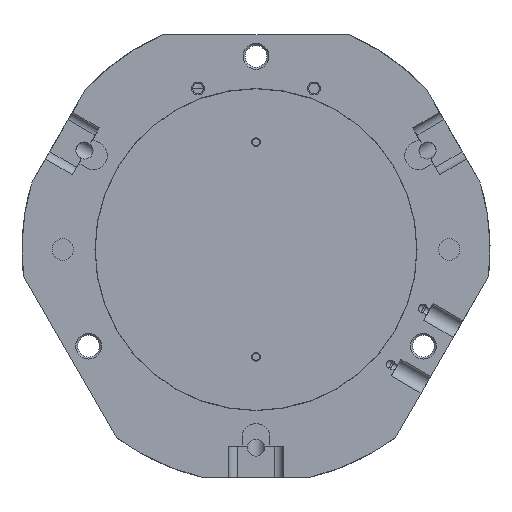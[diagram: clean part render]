
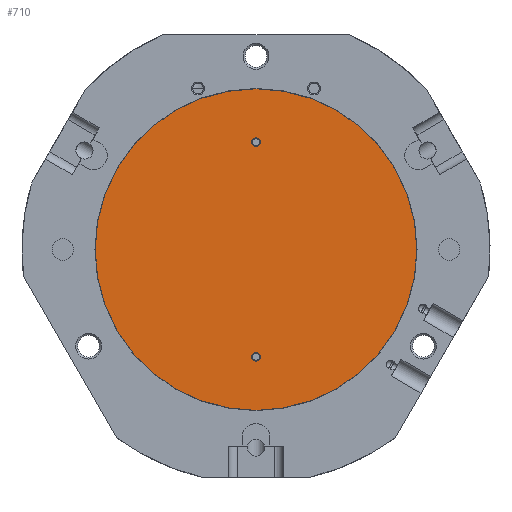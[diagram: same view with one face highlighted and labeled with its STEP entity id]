
A CAD part, front view. The second image highlights one B-rep face of the part: STEP entity #710.
In plain terms, the highlighted planar face has unit normal (0, -1, 0).
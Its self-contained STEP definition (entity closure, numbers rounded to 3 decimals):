
#710 = ADVANCED_FACE( '', ( #1594, #1595, #1596 ), #1597, .F. );
#1594 = FACE_BOUND( '', #2698, .T. );
#1595 = FACE_OUTER_BOUND( '', #2699, .T. );
#1596 = FACE_BOUND( '', #2700, .T. );
#1597 = PLANE( '', #2701 );
#2698 = EDGE_LOOP( '', ( #4476 ) );
#2699 = EDGE_LOOP( '', ( #4477 ) );
#2700 = EDGE_LOOP( '', ( #4478 ) );
#2701 = AXIS2_PLACEMENT_3D( '', #4479, #4480, #4481 );
#4476 = ORIENTED_EDGE( '', *, *, #6513, .F. );
#4477 = ORIENTED_EDGE( '', *, *, #6722, .F. );
#4478 = ORIENTED_EDGE( '', *, *, #6651, .F. );
#4479 = CARTESIAN_POINT( '', ( 0., 0., 0. ) );
#4480 = DIRECTION( '', ( 0., 1., 0. ) );
#4481 = DIRECTION( '', ( 0., 0., 1. ) );
#6513 = EDGE_CURVE( '', #7869, #7869, #7870, .T. );
#6651 = EDGE_CURVE( '', #8078, #8078, #8079, .T. );
#6722 = EDGE_CURVE( '', #8189, #8189, #8190, .T. );
#7869 = VERTEX_POINT( '', #9735 );
#7870 = CIRCLE( '', #9736, 2. );
#8078 = VERTEX_POINT( '', #10014 );
#8079 = CIRCLE( '', #10015, 2. );
#8189 = VERTEX_POINT( '', #10163 );
#8190 = CIRCLE( '', #10164, 74.9 );
#9735 = CARTESIAN_POINT( '', ( 0., 0., -52. ) );
#9736 = AXIS2_PLACEMENT_3D( '', #11431, #11432, #11433 );
#10014 = CARTESIAN_POINT( '', ( 0., 0., 48. ) );
#10015 = AXIS2_PLACEMENT_3D( '', #11610, #11611, #11612 );
#10163 = CARTESIAN_POINT( '', ( 74.9, 0., 0. ) );
#10164 = AXIS2_PLACEMENT_3D( '', #11706, #11707, #11708 );
#11431 = CARTESIAN_POINT( '', ( 0., 0., -50. ) );
#11432 = DIRECTION( '', ( 0., -1., 0. ) );
#11433 = DIRECTION( '', ( 0., 0., -1. ) );
#11610 = CARTESIAN_POINT( '', ( 0., 0., 50. ) );
#11611 = DIRECTION( '', ( 0., -1., 0. ) );
#11612 = DIRECTION( '', ( 0., 0., -1. ) );
#11706 = CARTESIAN_POINT( '', ( 0., 0., 0. ) );
#11707 = DIRECTION( '', ( 0., 1., 0. ) );
#11708 = DIRECTION( '', ( 1., 0., 0. ) );
